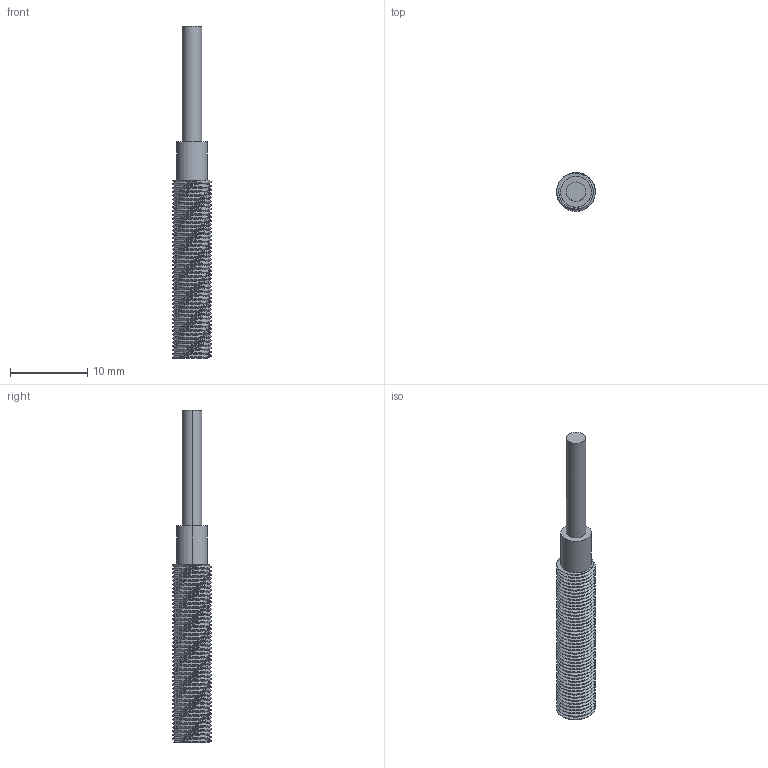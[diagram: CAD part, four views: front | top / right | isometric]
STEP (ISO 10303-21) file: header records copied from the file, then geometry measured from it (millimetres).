
FILE_DESCRIPTION (( 'STEP AP214' ), '1' );
FILE_NAME ('4.BIS1N10.STEP', '2024-11-06T01:04:55', ( '' ), ( '' ), 'SwSTEP 2.0', 'SolidWorks 2022', '' );
FILE_SCHEMA (( 'AUTOMOTIVE_DESIGN' ));
Length unit declared in the file: millimetre
Products named in the file (1): 4.BIS1N10
Bounding box: 5 x 4.99 x 43 mm (x, y, z)
Volume: 535.5 mm3; surface area: 768.6 mm2
Topology: 1 solids, 1 shells, 104 faces, 299 edges, 199 vertices
Faces by surface type: cylinder 97, plane 4, bspline 3
Entity records: 8572 total; most frequent: CARTESIAN_POINT 6370, ORIENTED_EDGE 598, DIRECTION 320, EDGE_CURVE 299, VERTEX_POINT 199, AXIS2_PLACEMENT_3D 112, EDGE_LOOP 106, ADVANCED_FACE 104
